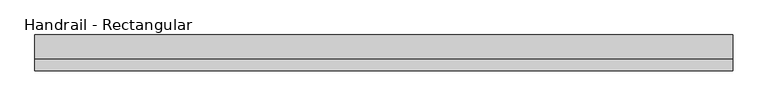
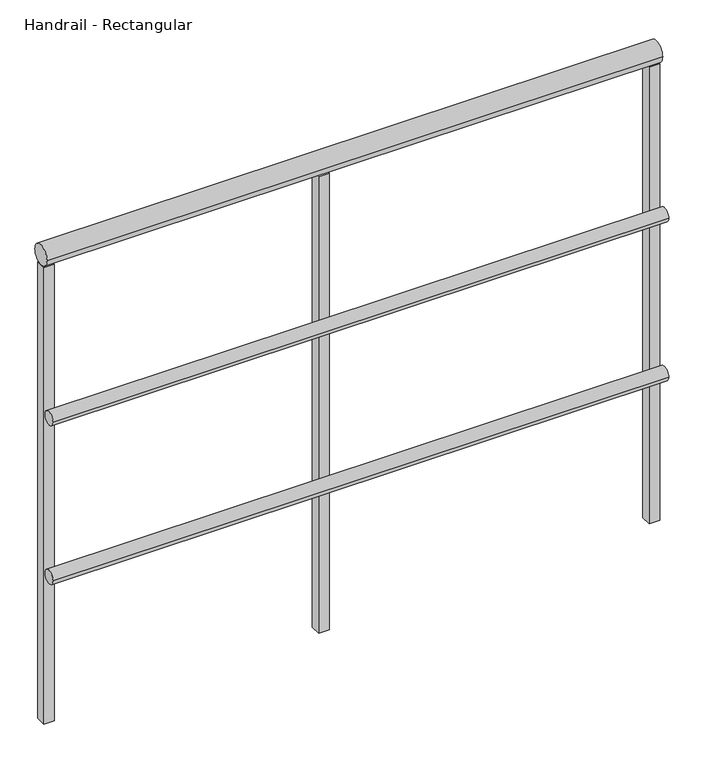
"""IFC4 building model written with IfcOpenShell, lengths in millimetres: railing geometry, Handrail - Rectangular."""

from ifc_helpers import new_model, si_unit, point, frame, frame_2d, origin, place, context, project, spatial, polyline, circle_curve, trimmed, segment, composite_curve, outline, extrude, source, transform, mapped, element, save


def handrail_rectangular_ba614922(model_context):
    return source(origin(), model_context, "Body", "SweptSolid", [
        extrude(outline(composite_curve([segment(trimmed(circle_curve(frame_2d((4350.2316867, 9740.9)), 12.7), [point((4337.5316867, 9740.9))], [point((4362.9316867, 9740.9))], False, "CARTESIAN"), True, "CONTINUOUS"), segment(trimmed(circle_curve(frame_2d((4350.2316867, 9740.9)), 12.7), [point((4362.9316867, 9740.9))], [point((4337.5316867, 9740.9))], False, "CARTESIAN"), True, "CONTINUOUS")], self_intersect=False)), frame((976.3410437, 0.0, 0.0), z_axis=(1.0, 0.0, 0.0), x_axis=(0.0, 1.0, 0.0)), (0.0, 0.0, 1.0), 1117.6),
        extrude(outline(composite_curve([segment(trimmed(circle_curve(frame_2d((4350.2316867, 9436.1)), 12.7), [point((4337.5316867, 9436.1))], [point((4362.9316867, 9436.1))], False, "CARTESIAN"), True, "CONTINUOUS"), segment(trimmed(circle_curve(frame_2d((4350.2316867, 9436.1)), 12.7), [point((4362.9316867, 9436.1))], [point((4337.5316867, 9436.1))], False, "CARTESIAN"), True, "CONTINUOUS")], self_intersect=False)), frame((976.3410437, 0.0, 0.0), z_axis=(1.0, 0.0, 0.0), x_axis=(0.0, 1.0, 0.0)), (0.0, 0.0, 1.0), 1117.6),
        extrude(outline(composite_curve([segment(trimmed(circle_curve(frame_2d((4375.6316867, 10039.35)), 19.05), [point((4356.5816867, 10039.35))], [point((4394.6816867, 10039.35))], False, "CARTESIAN"), True, "CONTINUOUS"), segment(trimmed(circle_curve(frame_2d((4375.6316867, 10039.35)), 19.05), [point((4394.6816867, 10039.35))], [point((4356.5816867, 10039.35))], False, "CARTESIAN"), True, "CONTINUOUS")], self_intersect=False)), frame((976.3410437, 0.0, 0.0), z_axis=(1.0, 0.0, 0.0), x_axis=(0.0, 1.0, 0.0)), (0.0, 0.0, 1.0), 1117.6),
        extrude(outline(polyline([(1493.8660437, 4385.1566867), (1493.8660437, 4366.1066867), (1474.8160437, 4366.1066867), (1474.8160437, 4385.1566867), (1493.8660437, 4385.1566867)])), frame((0.0, 0.0, 9144.0), z_axis=(0.0, 0.0, 1.0), x_axis=(1.0, 0.0, 0.0)), (0.0, 0.0, 1.0), 876.3),
        extrude(outline(polyline([(995.3910437, 4385.1566867), (995.3910437, 4366.1066867), (976.3410437, 4366.1066867), (976.3410437, 4385.1566867), (995.3910437, 4385.1566867)])), frame((0.0, 0.0, 9144.0), z_axis=(0.0, 0.0, 1.0), x_axis=(1.0, 0.0, 0.0)), (0.0, 0.0, 1.0), 876.3),
        extrude(outline(polyline([(2093.9410437, 4385.1566867), (2093.9410437, 4366.1066867), (2074.8910437, 4366.1066867), (2074.8910437, 4385.1566867), (2093.9410437, 4385.1566867)])), frame((0.0, 0.0, 9144.0), z_axis=(0.0, 0.0, 1.0), x_axis=(1.0, 0.0, 0.0)), (0.0, 0.0, 1.0), 876.3),
    ])


if __name__ == "__main__":
    model = new_model("IFC4")
    model_context = context("Model", 3, world=origin())
    ifc_project = project(units=[si_unit("LENGTHUNIT", "METRE", prefix="MILLI")], contexts=[model_context])
    site = spatial("IfcSite", under=ifc_project)
    building = spatial("IfcBuilding", under=site)
    placement = place(None, origin())
    handrail_rectangular_shape = handrail_rectangular_ba614922(model_context)
    element("IfcRailing", 1, ObjectType="Handrail - Rectangular", at=placement, inside=building, context=model_context, shape_type="MappedRepresentation", body=[
        mapped(handrail_rectangular_shape, transform((0.0, 0.0, 0.0), x_axis=(1.0, 0.0, 0.0), y_axis=(0.0, 1.0, 0.0), z_axis=(0.0, 0.0, 1.0))),
    ])
    save(model, "model.ifc")
